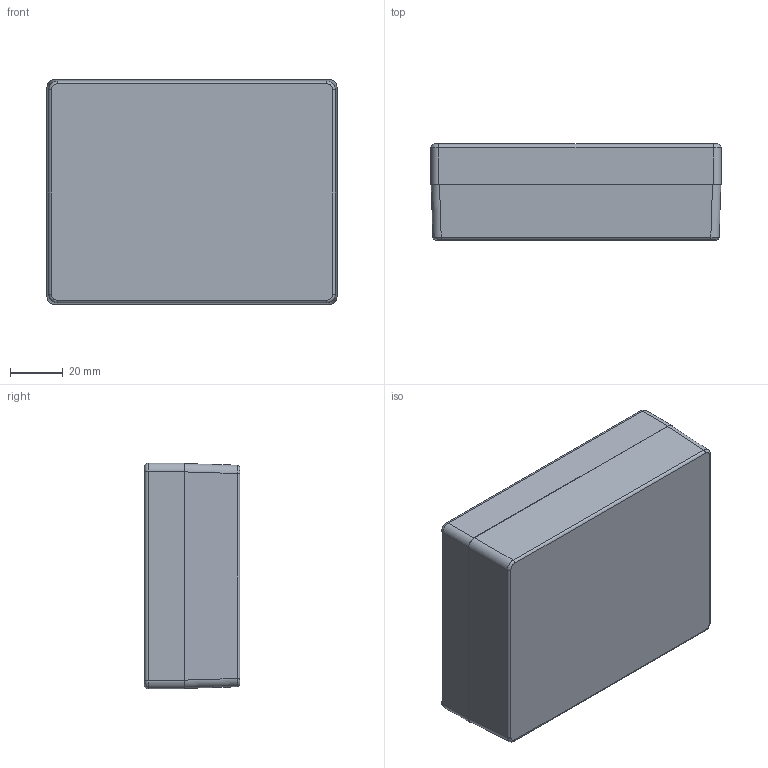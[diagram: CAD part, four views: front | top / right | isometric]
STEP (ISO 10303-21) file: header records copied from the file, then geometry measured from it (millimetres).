
FILE_DESCRIPTION (( 'STEP AP214' ), '1' );
FILE_NAME ('Conjunt PP96.STEP', '2017-06-29T17:11:11', ( 'aaa' ), ( '' ), 'SwSTEP 2.0', 'SolidWorks 2013', '' );
FILE_SCHEMA (( 'AUTOMOTIVE_DESIGN' ));
Length unit declared in the file: millimetre
Products named in the file (4): Cargol 2,1x6,5 PP96; Tapa PP96; Cuerpo PP96; Conjunt PP96
Assembly tree (6 placements, depth 2):
  Conjunt PP96
    Cuerpo PP96
    Tapa PP96
    Cargol 2,1x6,5 PP96  x4
Bounding box: 109.85 x 36.2 x 85.32 mm (x, y, z)
Volume: 85950.9 mm3; surface area: 68889.8 mm2
Topology: 6 solids, 6 shells, 398 faces, 864 edges, 516 vertices
Faces by surface type: cone 152, plane 134, cylinder 104, bspline 4, torus 4
Entity records: 6705 total; most frequent: CARTESIAN_POINT 1226, DIRECTION 1206, ORIENTED_EDGE 1016, EDGE_CURVE 508, AXIS2_PLACEMENT_3D 469, VERTEX_POINT 321, EDGE_LOOP 279, LINE 268
